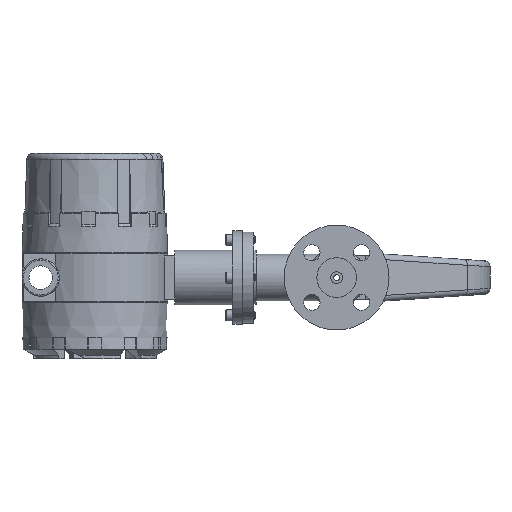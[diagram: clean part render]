
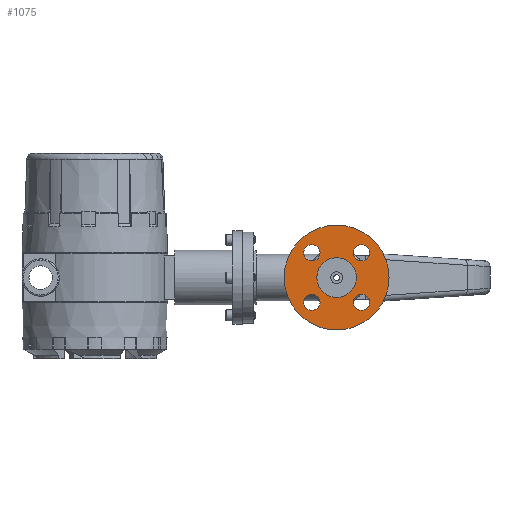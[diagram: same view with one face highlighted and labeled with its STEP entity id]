
A CAD part, left-side view. The second image highlights one B-rep face of the part: STEP entity #1075.
In plain terms, the highlighted planar face has unit normal (-1, 0, 0).
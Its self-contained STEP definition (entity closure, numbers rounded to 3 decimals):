
#1075=ADVANCED_FACE('',(#4804,#4806,#4808,#4810,#4812,#4814),#4816,.F.);
#4804=FACE_BOUND('',#4805,.T.);
#4805=EDGE_LOOP('',(#7362));
#4806=FACE_BOUND('',#4807,.T.);
#4807=EDGE_LOOP('',(#7363));
#4808=FACE_BOUND('',#4809,.T.);
#4809=EDGE_LOOP('',(#7364));
#4810=FACE_BOUND('',#4811,.T.);
#4811=EDGE_LOOP('',(#7365));
#4812=FACE_BOUND('',#4813,.T.);
#4813=EDGE_LOOP('',(#7366));
#4814=FACE_BOUND('',#4815,.T.);
#4815=EDGE_LOOP('',(#7367));
#4816=PLANE('',#4817);
#4817=AXIS2_PLACEMENT_3D('',#4818,#4819,#4820);
#4818=CARTESIAN_POINT('',(-193.521,0.,0.));
#4819=DIRECTION('',(1.,0.,0.));
#4820=DIRECTION('',(0.,0.,-1.));
#7362=ORIENTED_EDGE('',*,*,#8621,.F.);
#7363=ORIENTED_EDGE('',*,*,#8619,.T.);
#7364=ORIENTED_EDGE('',*,*,#8617,.T.);
#7365=ORIENTED_EDGE('',*,*,#8615,.T.);
#7366=ORIENTED_EDGE('',*,*,#8613,.T.);
#7367=ORIENTED_EDGE('',*,*,#8638,.F.);
#8613=EDGE_CURVE('',#9551,#9551,#9552,.T.);
#8615=EDGE_CURVE('',#9555,#9555,#9556,.T.);
#8617=EDGE_CURVE('',#9559,#9559,#9560,.T.);
#8619=EDGE_CURVE('',#9563,#9563,#9564,.T.);
#8621=EDGE_CURVE('',#9567,#9567,#9568,.T.);
#8638=EDGE_CURVE('',#9601,#9601,#9602,.T.);
#9551=VERTEX_POINT('',#13738);
#9552=CIRCLE('',#13739,7.);
#9555=VERTEX_POINT('',#13748);
#9556=CIRCLE('',#13749,7.);
#9559=VERTEX_POINT('',#13758);
#9560=CIRCLE('',#13759,7.);
#9563=VERTEX_POINT('',#13768);
#9564=CIRCLE('',#13769,7.);
#9567=VERTEX_POINT('',#13778);
#9568=CIRCLE('',#13779,45.);
#9601=VERTEX_POINT('',#14267);
#9602=CIRCLE('',#14268,17.);
#13738=CARTESIAN_POINT('',(-193.521,-53.608,55.253));
#13739=AXIS2_PLACEMENT_3D('',#13740,#13741,#13742);
#13740=CARTESIAN_POINT('',(-193.521,-53.608,62.253));
#13741=DIRECTION('',(1.,0.,0.));
#13742=DIRECTION('',(-0.,0.,1.));
#13748=CARTESIAN_POINT('',(-193.521,-11.181,55.253));
#13749=AXIS2_PLACEMENT_3D('',#13750,#13751,#13752);
#13750=CARTESIAN_POINT('',(-193.521,-11.181,62.253));
#13751=DIRECTION('',(1.,0.,0.));
#13752=DIRECTION('',(-0.,0.,1.));
#13758=CARTESIAN_POINT('',(-193.521,-53.608,97.68));
#13759=AXIS2_PLACEMENT_3D('',#13760,#13761,#13762);
#13760=CARTESIAN_POINT('',(-193.521,-53.608,104.68));
#13761=DIRECTION('',(1.,0.,0.));
#13762=DIRECTION('',(-0.,0.,1.));
#13768=CARTESIAN_POINT('',(-193.521,-11.181,97.68));
#13769=AXIS2_PLACEMENT_3D('',#13770,#13771,#13772);
#13770=CARTESIAN_POINT('',(-193.521,-11.181,104.68));
#13771=DIRECTION('',(1.,0.,0.));
#13772=DIRECTION('',(-0.,0.,1.));
#13778=CARTESIAN_POINT('',(-193.521,-32.394,38.466));
#13779=AXIS2_PLACEMENT_3D('',#13780,#13781,#13782);
#13780=CARTESIAN_POINT('',(-193.521,-32.394,83.466));
#13781=DIRECTION('',(1.,0.,0.));
#13782=DIRECTION('',(0.,0.,-1.));
#14267=CARTESIAN_POINT('',(-193.521,-32.394,100.466));
#14268=AXIS2_PLACEMENT_3D('',#14269,#14270,#14271);
#14269=CARTESIAN_POINT('',(-193.521,-32.394,83.466));
#14270=DIRECTION('',(-1.,-0.,-0.));
#14271=DIRECTION('',(-0.,0.,1.));
